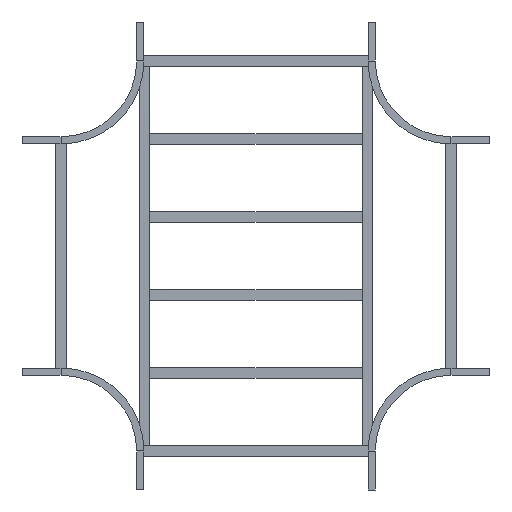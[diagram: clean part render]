
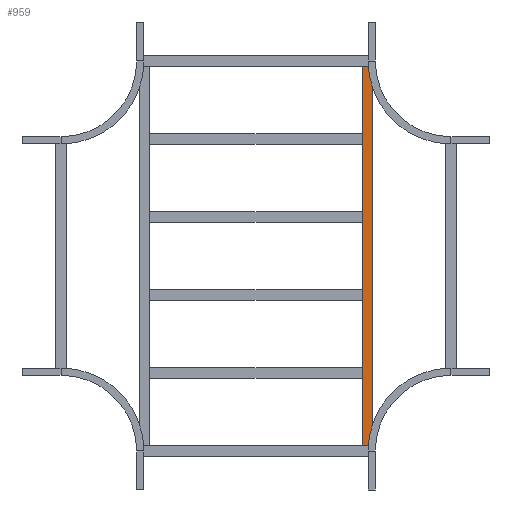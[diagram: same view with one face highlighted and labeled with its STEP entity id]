
A CAD part, front view. The second image highlights one B-rep face of the part: STEP entity #959.
In plain terms, the highlighted planar face has unit normal (0, -1, 0).
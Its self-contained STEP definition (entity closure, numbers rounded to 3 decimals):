
#137 = DIRECTION ( 'NONE',  ( -1., 0., 0. ) ) ;
#139 = AXIS2_PLACEMENT_3D ( 'NONE', #1373, #855, #166 ) ;
#151 = VECTOR ( 'NONE', #988, 1000. ) ;
#156 = FACE_OUTER_BOUND ( 'NONE', #716, .T. ) ;
#166 = DIRECTION ( 'NONE',  ( 0., 0., 1. ) ) ;
#239 = EDGE_CURVE ( 'NONE', #733, #783, #645, .T. ) ;
#335 = DIRECTION ( 'NONE',  ( 0., 0., -1. ) ) ;
#396 = EDGE_CURVE ( 'NONE', #1472, #475, #1542, .T. ) ;
#475 = VERTEX_POINT ( 'NONE', #874 ) ;
#645 = LINE ( 'NONE', #728, #1942 ) ;
#669 = LINE ( 'NONE', #1382, #151 ) ;
#716 = EDGE_LOOP ( 'NONE', ( #1429, #1453, #1978, #1633 ) ) ;
#728 = CARTESIAN_POINT ( 'NONE',  ( 729.75, 0., 20.25 ) ) ;
#733 = VERTEX_POINT ( 'NONE', #1640 ) ;
#783 = VERTEX_POINT ( 'NONE', #1407 ) ;
#837 = VECTOR ( 'NONE', #335, 1000. ) ;
#855 = DIRECTION ( 'NONE',  ( 0., 1., 0. ) ) ;
#874 = CARTESIAN_POINT ( 'NONE',  ( -729.75, 0., -20.25 ) ) ;
#942 = VECTOR ( 'NONE', #137, 1000. ) ;
#959 = ADVANCED_FACE ( 'NONE', ( #156 ), #1924, .F. ) ;
#988 = DIRECTION ( 'NONE',  ( 0., 0., -1. ) ) ;
#1049 = DIRECTION ( 'NONE',  ( -1., 0., 0. ) ) ;
#1064 = EDGE_CURVE ( 'NONE', #783, #475, #669, .T. ) ;
#1084 = CARTESIAN_POINT ( 'NONE',  ( 729.75, 0., 20.25 ) ) ;
#1369 = CARTESIAN_POINT ( 'NONE',  ( 729.75, 0., -20.25 ) ) ;
#1373 = CARTESIAN_POINT ( 'NONE',  ( 729.75, 0., 20.25 ) ) ;
#1382 = CARTESIAN_POINT ( 'NONE',  ( -729.75, 0., 20.25 ) ) ;
#1407 = CARTESIAN_POINT ( 'NONE',  ( -729.75, 0., 20.25 ) ) ;
#1429 = ORIENTED_EDGE ( 'NONE', *, *, #1064, .T. ) ;
#1453 = ORIENTED_EDGE ( 'NONE', *, *, #396, .F. ) ;
#1472 = VERTEX_POINT ( 'NONE', #1369 ) ;
#1526 = EDGE_CURVE ( 'NONE', #733, #1472, #1593, .T. ) ;
#1542 = LINE ( 'NONE', #2082, #942 ) ;
#1593 = LINE ( 'NONE', #1084, #837 ) ;
#1633 = ORIENTED_EDGE ( 'NONE', *, *, #239, .T. ) ;
#1640 = CARTESIAN_POINT ( 'NONE',  ( 729.75, 0., 20.25 ) ) ;
#1924 = PLANE ( 'NONE',  #139 ) ;
#1942 = VECTOR ( 'NONE', #1049, 1000. ) ;
#1978 = ORIENTED_EDGE ( 'NONE', *, *, #1526, .F. ) ;
#2082 = CARTESIAN_POINT ( 'NONE',  ( 729.75, 0., -20.25 ) ) ;
